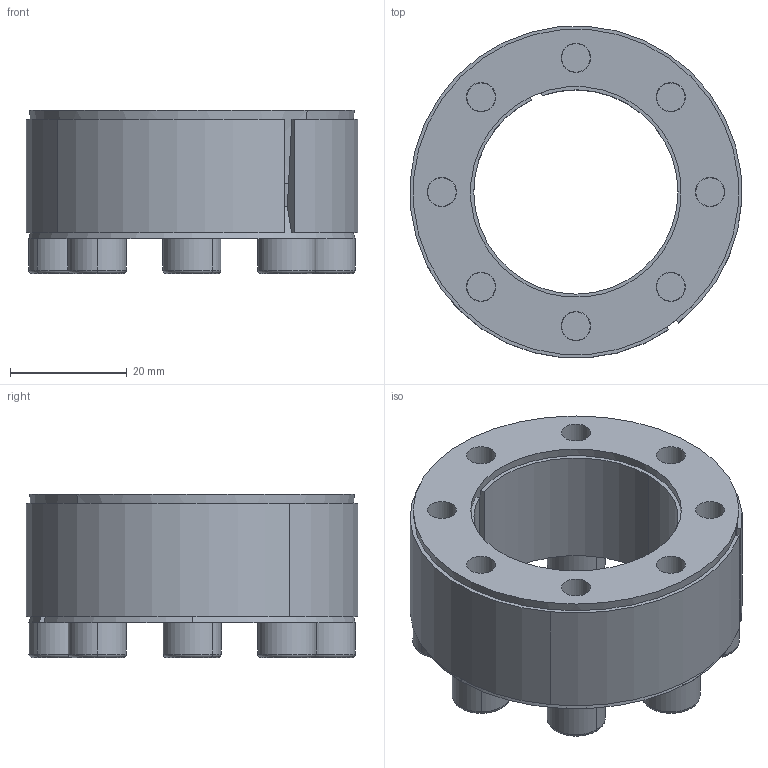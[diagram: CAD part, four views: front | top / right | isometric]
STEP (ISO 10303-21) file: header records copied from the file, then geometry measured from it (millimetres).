
FILE_DESCRIPTION (( 'STEP AP214' ), '1' );
FILE_NAME ('CONEX-L-35x57.step', '2013-04-06T13:22:38', ( 'Pc' ), ( '' ), 'SwSTEP 2.0', 'SolidWorks 2013', '' );
FILE_SCHEMA (( 'AUTOMOTIVE_DESIGN' ));
Length unit declared in the file: millimetre
Products named in the file (1): CONEX-L-35x57
Bounding box: 56.86 x 56.81 x 27.97 mm (x, y, z)
Volume: 32721 mm3; surface area: 28010.1 mm2
Topology: 11 solids, 11 shells, 289 faces, 663 edges, 396 vertices
Faces by surface type: plane 131, cylinder 78, cone 48, torus 32
Entity records: 11433 total; most frequent: DIRECTION 1532, CARTESIAN_POINT 1369, ORIENTED_EDGE 1294, EDGE_CURVE 647, AXIS2_PLACEMENT_3D 603, VERTEX_POINT 396, EDGE_LOOP 347, LINE 326
